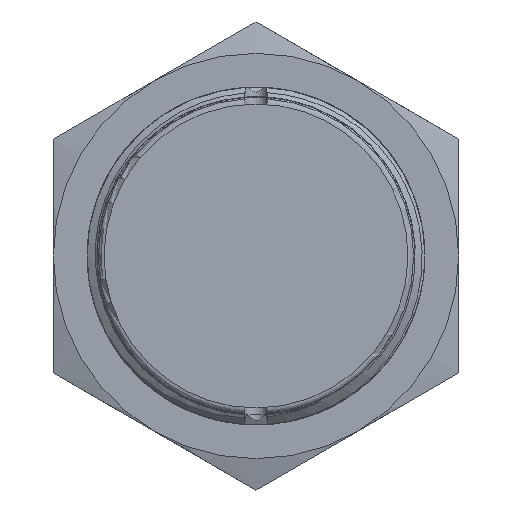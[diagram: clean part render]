
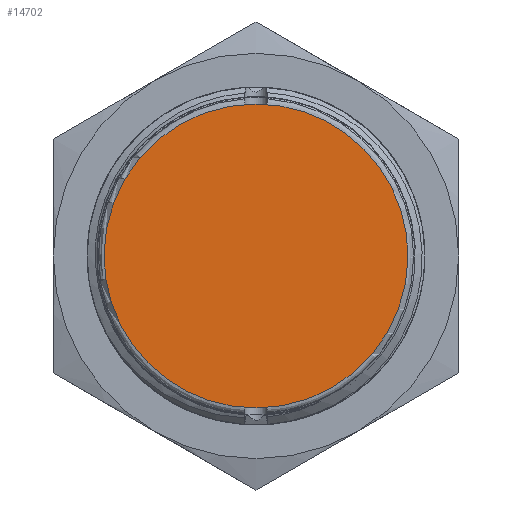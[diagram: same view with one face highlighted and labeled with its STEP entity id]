
A CAD part, left-side view. The second image highlights one B-rep face of the part: STEP entity #14702.
In plain terms, the highlighted planar face has unit normal (-1, 0, 0).
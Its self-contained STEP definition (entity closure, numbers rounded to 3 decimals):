
#6805=CARTESIAN_POINT('',(0.,0.,-13.5));
#6968=CARTESIAN_POINT('',(0.,0.,0.));
#6969=DIRECTION('',(1.,0.,0.));
#6970=DIRECTION('',(0.,0.,-1.));
#6971=AXIS2_PLACEMENT_3D('',#6968,#6969,#6970);
#6976=CARTESIAN_POINT('',(0.,0.,0.));
#6977=DIRECTION('',(1.,0.,0.));
#6978=DIRECTION('',(0.,1.,0.01));
#6979=AXIS2_PLACEMENT_3D('',#6976,#6977,#6978);
#6984=CARTESIAN_POINT('',(0.,0.,0.));
#6985=DIRECTION('',(1.,0.,0.));
#6986=DIRECTION('',(0.,0.,1.));
#6987=AXIS2_PLACEMENT_3D('',#6984,#6985,#6986);
#6992=CARTESIAN_POINT('',(0.,0.,0.));
#6993=DIRECTION('',(1.,0.,0.));
#6994=DIRECTION('',(0.,-1.,-0.01));
#6995=AXIS2_PLACEMENT_3D('',#6992,#6993,#6994);
#9251=VERTEX_POINT('',#6805);
#9252=CARTESIAN_POINT('',(0.,-13.499,-0.134));
#9253=VERTEX_POINT('',#9252);
#9254=CARTESIAN_POINT('',(0.,0.,13.5));
#9255=VERTEX_POINT('',#9254);
#9257=CARTESIAN_POINT('',(0.,13.499,0.134));
#9258=VERTEX_POINT('',#9257);
#14691=CARTESIAN_POINT('',(0.,0.,0.));
#14692=DIRECTION('',(-1.,0.,0.));
#14693=DIRECTION('',(0.,1.,0.));
#14694=AXIS2_PLACEMENT_3D('',#14691,#14692,#14693);
#14695=PLANE('',#14694);
#14696=ORIENTED_EDGE('',*,*,#14670,.T.);
#14697=ORIENTED_EDGE('',*,*,#14668,.T.);
#14698=ORIENTED_EDGE('',*,*,#14621,.T.);
#14699=ORIENTED_EDGE('',*,*,#14619,.T.);
#14700=EDGE_LOOP('',(#14696,#14697,#14698,#14699));
#14701=FACE_OUTER_BOUND('',#14700,.F.);
#6972=CIRCLE('',#6971,13.5);
#6980=CIRCLE('',#6979,13.5);
#6988=CIRCLE('',#6987,13.5);
#6996=CIRCLE('',#6995,13.5);
#14619=EDGE_CURVE('',#9253,#9251,#6996,.T.);
#14621=EDGE_CURVE('',#9255,#9253,#6988,.T.);
#14668=EDGE_CURVE('',#9258,#9255,#6980,.T.);
#14670=EDGE_CURVE('',#9251,#9258,#6972,.T.);
#14702=ADVANCED_FACE('',(#14701),#14695,.T.);
